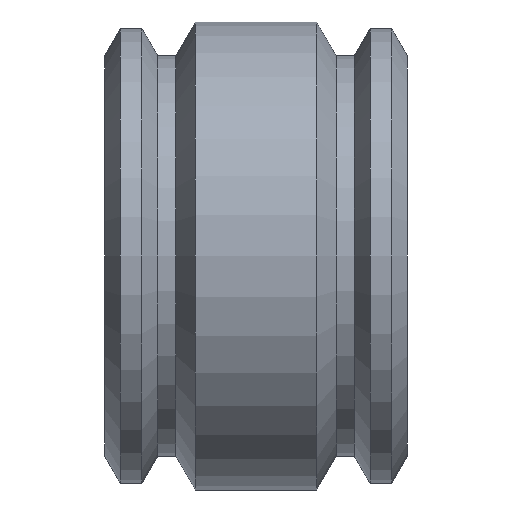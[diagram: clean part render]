
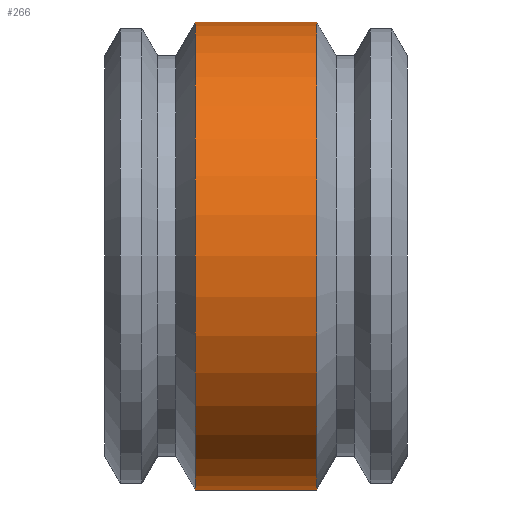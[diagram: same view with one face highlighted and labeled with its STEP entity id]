
A CAD part, front view. The second image highlights one B-rep face of the part: STEP entity #266.
In plain terms, the highlighted cylindrical face has radius 290.703 mm (diameter 581.406 mm), a full revolution.
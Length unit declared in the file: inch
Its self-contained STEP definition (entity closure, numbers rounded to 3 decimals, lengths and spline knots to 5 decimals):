
#21=CYLINDRICAL_SURFACE('',#312,11.445);
#30=FACE_OUTER_BOUND('',#44,.T.);
#44=EDGE_LOOP('',(#205,#206,#207,#208,#209,#210));
#60=LINE('',#475,#72);
#72=VECTOR('',#384,11.445);
#89=CIRCLE('',#310,11.445);
#90=CIRCLE('',#311,11.445);
#91=CIRCLE('',#313,11.445);
#92=CIRCLE('',#314,11.445);
#117=VERTEX_POINT('',#465);
#118=VERTEX_POINT('',#466);
#119=VERTEX_POINT('',#471);
#120=VERTEX_POINT('',#472);
#149=EDGE_CURVE('',#117,#118,#89,.T.);
#150=EDGE_CURVE('',#118,#117,#90,.T.);
#152=EDGE_CURVE('',#119,#120,#91,.T.);
#153=EDGE_CURVE('',#120,#119,#92,.T.);
#154=EDGE_CURVE('',#120,#118,#60,.T.);
#205=ORIENTED_EDGE('',*,*,#152,.F.);
#206=ORIENTED_EDGE('',*,*,#153,.F.);
#207=ORIENTED_EDGE('',*,*,#154,.T.);
#208=ORIENTED_EDGE('',*,*,#150,.T.);
#209=ORIENTED_EDGE('',*,*,#149,.T.);
#210=ORIENTED_EDGE('',*,*,#154,.F.);
#266=ADVANCED_FACE('',(#30),#21,.T.);
#310=AXIS2_PLACEMENT_3D('',#467,#373,#374);
#311=AXIS2_PLACEMENT_3D('',#468,#375,#376);
#312=AXIS2_PLACEMENT_3D('',#470,#378,#379);
#313=AXIS2_PLACEMENT_3D('',#473,#380,#381);
#314=AXIS2_PLACEMENT_3D('',#474,#382,#383);
#373=DIRECTION('center_axis',(-1.,0.,0.));
#374=DIRECTION('ref_axis',(0.,0.,1.));
#375=DIRECTION('center_axis',(-1.,0.,0.));
#376=DIRECTION('ref_axis',(0.,0.,1.));
#378=DIRECTION('center_axis',(-1.,0.,0.));
#379=DIRECTION('ref_axis',(0.,-1.,0.));
#380=DIRECTION('center_axis',(-1.,0.,0.));
#381=DIRECTION('ref_axis',(0.,0.,1.));
#382=DIRECTION('center_axis',(-1.,0.,0.));
#383=DIRECTION('ref_axis',(0.,0.,1.));
#384=DIRECTION('',(1.,0.,0.));
#465=CARTESIAN_POINT('',(2.96,-11.445,0.));
#466=CARTESIAN_POINT('',(2.96,11.445,0.));
#467=CARTESIAN_POINT('Origin',(2.96,0.,0.));
#468=CARTESIAN_POINT('Origin',(2.96,0.,0.));
#470=CARTESIAN_POINT('Origin',(0.,0.,0.));
#471=CARTESIAN_POINT('',(-2.96,-11.445,0.));
#472=CARTESIAN_POINT('',(-2.96,11.445,0.));
#473=CARTESIAN_POINT('Origin',(-2.96,0.,0.));
#474=CARTESIAN_POINT('Origin',(-2.96,0.,0.));
#475=CARTESIAN_POINT('',(0.,11.445,0.));
